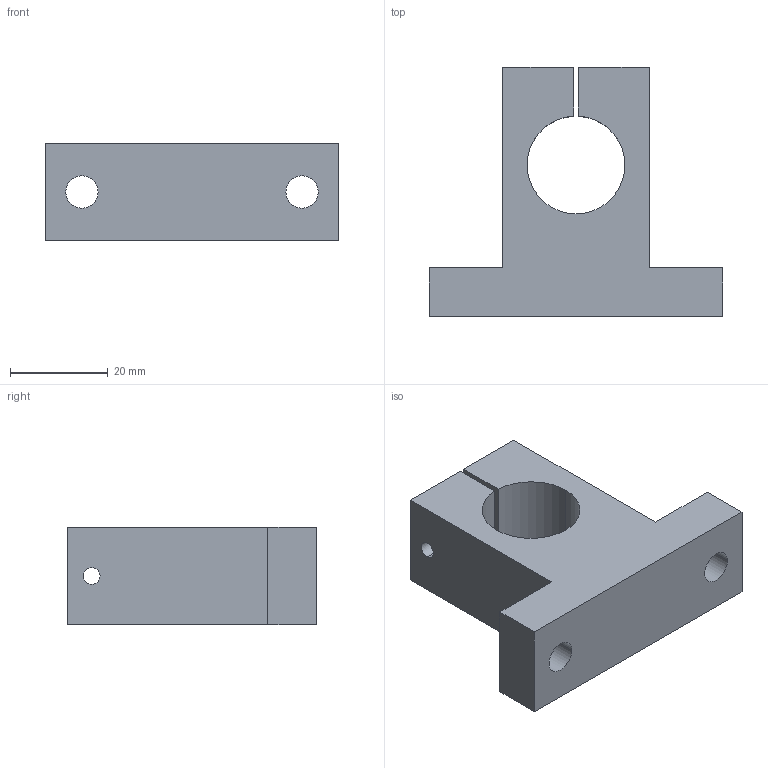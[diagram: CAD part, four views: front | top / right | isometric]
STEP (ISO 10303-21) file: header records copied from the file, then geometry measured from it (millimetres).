
FILE_DESCRIPTION((''),'2;1');
FILE_NAME('C:\Documents and Settings\ｿﾀﾀ蠑ｷ1\ｹﾙﾅﾁ ﾈｭｸ饅\ｺﾎﾇｰﾆﾄﾀﾏ\ﾁｦﾇｰ\SK\SK20.stp','2005-06-15T17:41:09',('ｿﾀﾀ蠑ｷ1'),(''),'Autodesk Inventor 9','Autodesk Inventor 9','');
FILE_SCHEMA(('AUTOMOTIVE_DESIGN { 1 0 10303 214 1 1 1 1 }'));
Length unit declared in the file: millimetre
Products named in the file (1): SK__
Bounding box: 60 x 51 x 20 mm (x, y, z)
Volume: 28744.4 mm3; surface area: 9742.8 mm2
Topology: 1 solids, 1 shells, 27 faces, 72 edges, 48 vertices
Faces by surface type: plane 13, bspline 11, cylinder 3
Entity records: 1021 total; most frequent: CARTESIAN_POINT 321, ORIENTED_EDGE 144, DIRECTION 132, EDGE_CURVE 72, VERTEX_POINT 48, VECTOR 46, LINE 46, AXIS2_PLACEMENT_3D 43
